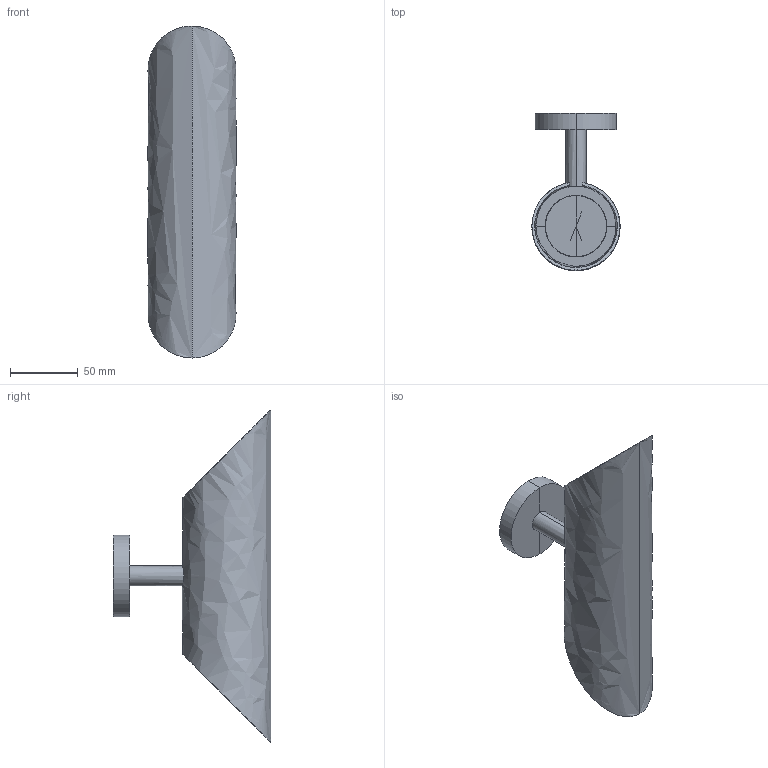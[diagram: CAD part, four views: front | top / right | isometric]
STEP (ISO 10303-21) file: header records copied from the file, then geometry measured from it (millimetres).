
FILE_DESCRIPTION(/* description */ (''),/* implementation_level */ '2;1');
FILE_NAME(/* name */ 'Wally D',/* time_stamp */ '2025-06-18T18:26:10+02:00',/* author */ (''),/* organization */ (''),/* preprocessor_version */ 'ST-DEVELOPER v15',/* originating_system */ '',/* authorisation */ '');
FILE_SCHEMA (('CONFIG_CONTROL_DESIGN'));
Length unit declared in the file: millimetre
Products named in the file (1): Document
Bounding box: 65 x 115.95 x 244.83 mm (x, y, z)
Volume: 367398.1 mm3; surface area: 161794.6 mm2
Topology: 13 solids, 13 shells, 261 faces, 593 edges, 322 vertices
Faces by surface type: bspline 261
Entity records: 18066 total; most frequent: CARTESIAN_POINT 10732, B_SPLINE_CURVE_WITH_KNOTS 1422, ORIENTED_EDGE 1162, PCURVE 1162, DEFINITIONAL_REPRESENTATION 1162, SURFACE_CURVE 581, EDGE_CURVE 581, VERTEX_POINT 322
